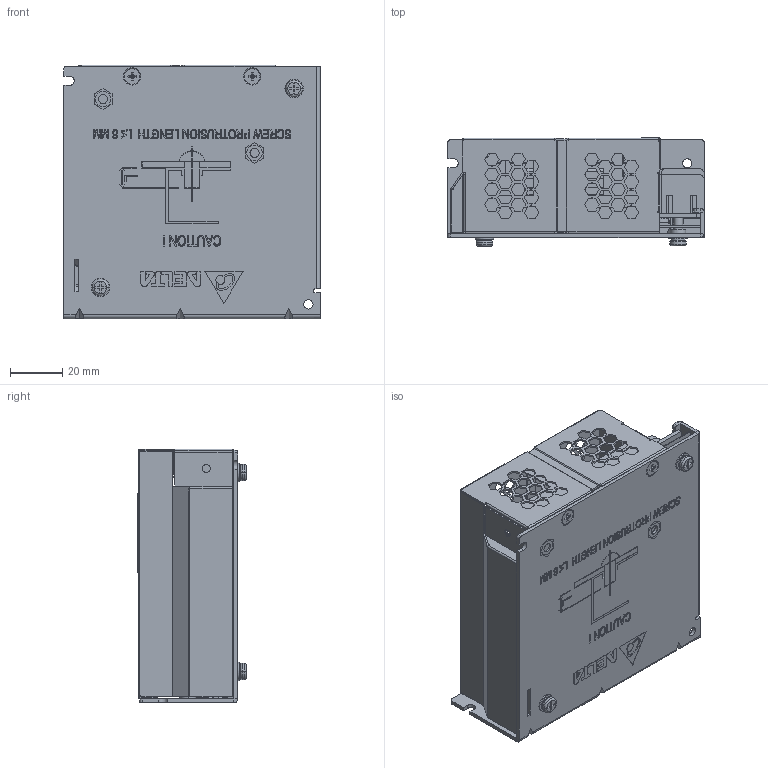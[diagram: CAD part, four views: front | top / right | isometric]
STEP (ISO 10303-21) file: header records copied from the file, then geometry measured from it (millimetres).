
FILE_DESCRIPTION((''),'2;1');
FILE_NAME('PMH-24V50WCAA_ASM','2017-06-21T',('Yuthaphichai.Chan'),(''),'PRO/ENGINEER BY PARAMETRIC TECHNOLOGY CORPORATION, 2010180','PRO/ENGINEER BY PARAMETRIC TECHNOLOGY CORPORATION, 2010180','');
FILE_SCHEMA(('CONFIG_CONTROL_DESIGN','SHAPE_APPEARANCE_LAYERS_GROUPS'));
Products named in the file (26): 331609650101_3; 331609650101_A_STUD_1; 331609650101_ASM_3_ASM; 331605710101_3; INSULATOR-CHASSIS_50; 326203870304_1; 3268095800_1; 295_PWB_9; 307049747W_A_BODY_1; 307049747W_A_SCREW_1; 307049747W_ASM_1_ASM; EE_VR510_A_BODY_1; EE_VR510_A_LEG_1; EE_VR510_ASM_35_ASM; EE_LED350_2301151506_1; 307049857W-_1; 307049857W; ASSY_PWB_PMH-24V50WCAA_ASM_85_ASM; 3103301000_1; 3100001000_1; 3460405500_1; 3100000400_1; 3202315200_1; SYSTEMSCREW_2; PMH-24V50WCAA_ASM_114_ASM; PMH-24V50WCAA_ASM
Assembly tree (37 placements, depth 5):
  PMH-24V50WCAA_ASM
    PMH-24V50WCAA_ASM_114_ASM
      331609650101_ASM_3_ASM
        331609650101_3
        331609650101_A_STUD_1  x2
      331605710101_3
      INSULATOR-CHASSIS_50
      326203870304_1
      3268095800_1
      ASSY_PWB_PMH-24V50WCAA_ASM_85_ASM
        295_PWB_9
        307049747W_ASM_1_ASM
          307049747W_A_BODY_1
          307049747W_A_SCREW_1  x5
        EE_VR510_ASM_35_ASM
          EE_VR510_A_BODY_1
          EE_VR510_A_LEG_1  x3
        EE_LED350_2301151506_1
        307049857W-_1
        307049857W
      3103301000_1  x2
      3100001000_1
      3460405500_1
      3100000400_1  x4
      3202315200_1
      SYSTEMSCREW_2  x2
Bounding box: 98 x 41.35 x 97.05 mm (x, y, z)
Volume: 74468.3 mm3; surface area: 123977.4 mm2
Topology: 32 solids, 32 shells, 5880 faces, 16030 edges, 10106 vertices
Faces by surface type: plane 4247, cylinder 673, extrusion 573, bspline 217, cone 114, torus 56
Entity records: 203958 total; most frequent: CARTESIAN_POINT 36827, ORIENTED_EDGE 28112, DIRECTION 23694, EDGE_CURVE 14056, PRESENTATION_STYLE_ASSIGNMENT 12266, STYLED_ITEM 12134, CURVE_STYLE 11970, VECTOR 11778
